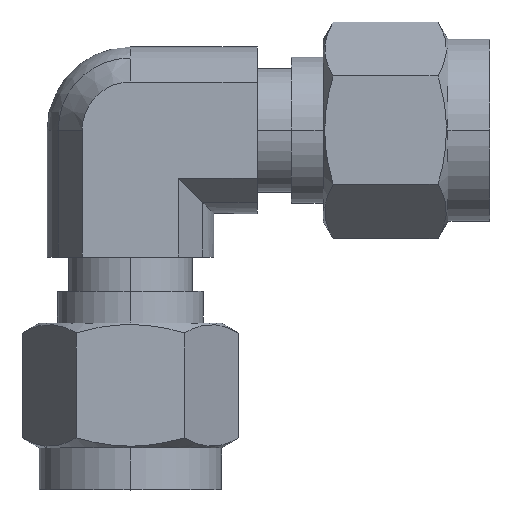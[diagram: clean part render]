
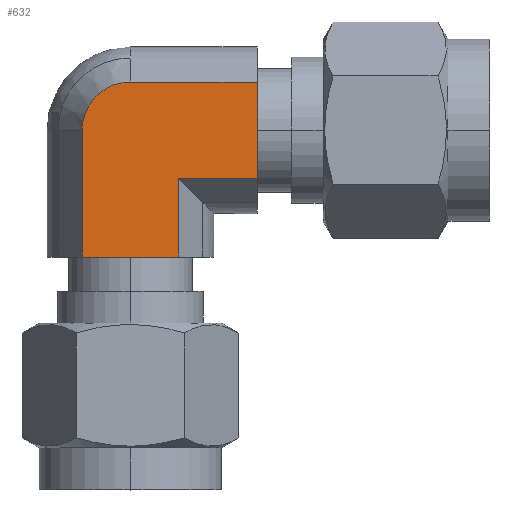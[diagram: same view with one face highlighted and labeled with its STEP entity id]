
A CAD part, top view. The second image highlights one B-rep face of the part: STEP entity #632.
In plain terms, the highlighted planar face has unit normal (0, 0, 1).
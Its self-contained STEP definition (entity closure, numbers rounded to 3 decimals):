
#339 = VERTEX_POINT ( 'NONE', #1217 ) ;
#341 = EDGE_CURVE ( 'NONE', #342, #339, #1216, .T. ) ;
#342 = VERTEX_POINT ( 'NONE', #1212 ) ;
#461 = ORIENTED_EDGE ( 'NONE', *, *, #462, .F. ) ;
#462 = EDGE_CURVE ( 'NONE', #463, #637, #1493, .T. ) ;
#463 = VERTEX_POINT ( 'NONE', #1489 ) ;
#464 = ORIENTED_EDGE ( 'NONE', *, *, #465, .T. ) ;
#465 = EDGE_CURVE ( 'NONE', #463, #466, #1630, .T. ) ;
#466 = VERTEX_POINT ( 'NONE', #1626 ) ;
#467 = ORIENTED_EDGE ( 'NONE', *, *, #468, .F. ) ;
#468 = EDGE_CURVE ( 'NONE', #469, #466, #1625, .T. ) ;
#469 = VERTEX_POINT ( 'NONE', #1620 ) ;
#470 = ORIENTED_EDGE ( 'NONE', *, *, #471, .F. ) ;
#471 = EDGE_CURVE ( 'NONE', #480, #469, #1619, .T. ) ;
#472 = ORIENTED_EDGE ( 'NONE', *, *, #479, .F. ) ;
#479 = EDGE_CURVE ( 'NONE', #342, #480, #1668, .T. ) ;
#480 = VERTEX_POINT ( 'NONE', #1664 ) ;
#632 = ADVANCED_FACE ( 'NONE', ( #1897 ), #1896, .F. ) ;
#633 = EDGE_LOOP ( 'NONE', ( #634, #635, #461, #464, #467, #470, #472 ) ) ;
#634 = ORIENTED_EDGE ( 'NONE', *, *, #341, .T. ) ;
#635 = ORIENTED_EDGE ( 'NONE', *, *, #636, .F. ) ;
#636 = EDGE_CURVE ( 'NONE', #637, #339, #1894, .T. ) ;
#637 = VERTEX_POINT ( 'NONE', #2092 ) ;
#1212 = CARTESIAN_POINT ( 'NONE',  ( 3.666, -9.67, 6.35 ) ) ;
#1213 = DIRECTION ( 'NONE',  ( 0., 1., 0. ) ) ;
#1214 = VECTOR ( 'NONE', #1213, 1000. ) ;
#1215 = CARTESIAN_POINT ( 'NONE',  ( 3.666, -9.67, 6.35 ) ) ;
#1216 = LINE ( 'NONE', #1215, #1214 ) ;
#1217 = CARTESIAN_POINT ( 'NONE',  ( 3.666, -3.666, 6.35 ) ) ;
#1489 = CARTESIAN_POINT ( 'NONE',  ( 9.67, 3.666, 6.35 ) ) ;
#1490 = DIRECTION ( 'NONE',  ( 0., -1., 0. ) ) ;
#1491 = VECTOR ( 'NONE', #1490, 1000. ) ;
#1492 = CARTESIAN_POINT ( 'NONE',  ( 9.67, 3.666, 6.35 ) ) ;
#1493 = LINE ( 'NONE', #1492, #1491 ) ;
#1616 = DIRECTION ( 'NONE',  ( 0., 1., 0. ) ) ;
#1617 = VECTOR ( 'NONE', #1616, 1000. ) ;
#1618 = CARTESIAN_POINT ( 'NONE',  ( -3.666, -9.67, 6.35 ) ) ;
#1619 = LINE ( 'NONE', #1618, #1617 ) ;
#1620 = CARTESIAN_POINT ( 'NONE',  ( -3.666, 0., 6.35 ) ) ;
#1621 = DIRECTION ( 'NONE',  ( 0., 1., 0. ) ) ;
#1622 = DIRECTION ( 'NONE',  ( 0., 0., -1. ) ) ;
#1623 = CARTESIAN_POINT ( 'NONE',  ( 0., 0., 6.35 ) ) ;
#1624 = AXIS2_PLACEMENT_3D ( 'NONE', #1623, #1622, #1621 ) ;
#1625 = CIRCLE ( 'NONE', #1624, 3.666 ) ;
#1626 = CARTESIAN_POINT ( 'NONE',  ( 0., 3.666, 6.35 ) ) ;
#1627 = DIRECTION ( 'NONE',  ( -1., 0., 0. ) ) ;
#1628 = VECTOR ( 'NONE', #1627, 1000. ) ;
#1629 = CARTESIAN_POINT ( 'NONE',  ( 9.67, 3.666, 6.35 ) ) ;
#1630 = LINE ( 'NONE', #1629, #1628 ) ;
#1664 = CARTESIAN_POINT ( 'NONE',  ( -3.666, -9.67, 6.35 ) ) ;
#1665 = DIRECTION ( 'NONE',  ( -1., 0., 0. ) ) ;
#1666 = VECTOR ( 'NONE', #1665, 1000. ) ;
#1667 = CARTESIAN_POINT ( 'NONE',  ( 3.666, -9.67, 6.35 ) ) ;
#1668 = LINE ( 'NONE', #1667, #1666 ) ;
#1892 = DIRECTION ( 'NONE',  ( 0., 0., -1. ) ) ;
#1893 = AXIS2_PLACEMENT_3D ( 'NONE', #1895, #1892, #2096 ) ;
#1894 = LINE ( 'NONE', #2095, #2094 ) ;
#1895 = CARTESIAN_POINT ( 'NONE',  ( 3.666, -9.67, 6.35 ) ) ;
#1896 = PLANE ( 'NONE',  #1893 ) ;
#1897 = FACE_OUTER_BOUND ( 'NONE', #633, .T. ) ;
#2092 = CARTESIAN_POINT ( 'NONE',  ( 9.67, -3.666, 6.35 ) ) ;
#2093 = DIRECTION ( 'NONE',  ( -1., 0., 0. ) ) ;
#2094 = VECTOR ( 'NONE', #2093, 1000. ) ;
#2095 = CARTESIAN_POINT ( 'NONE',  ( 9.67, -3.666, 6.35 ) ) ;
#2096 = DIRECTION ( 'NONE',  ( 1., 0., 0. ) ) ;
